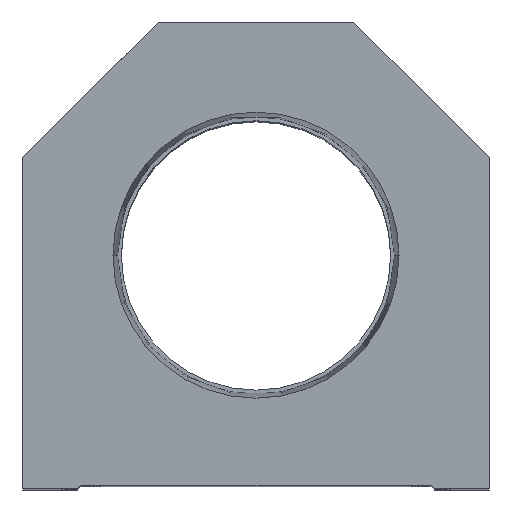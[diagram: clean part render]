
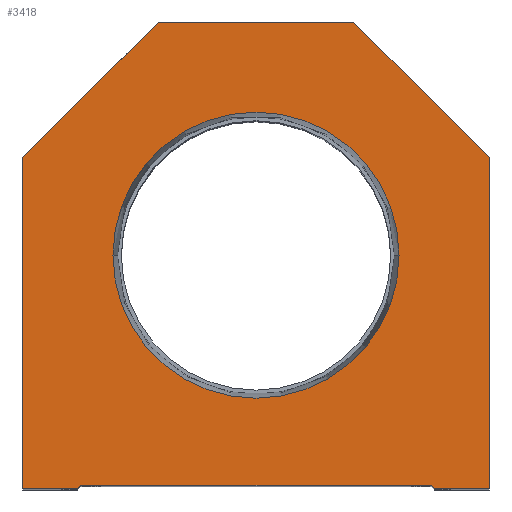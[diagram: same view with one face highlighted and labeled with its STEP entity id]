
A CAD part, top view. The second image highlights one B-rep face of the part: STEP entity #3418.
In plain terms, the highlighted planar face has unit normal (0, 0, 1).
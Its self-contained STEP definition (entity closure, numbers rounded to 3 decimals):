
#151 = EDGE_CURVE ( 'NONE', #7926, #14032, #14495, .T. ) ;
#550 = CARTESIAN_POINT ( 'NONE',  ( -14.55, 14.55, 0. ) ) ;
#605 = CARTESIAN_POINT ( 'NONE',  ( -28.6, 0.5, 0. ) ) ;
#867 = LINE ( 'NONE', #14724, #13918 ) ;
#948 = EDGE_CURVE ( 'NONE', #9672, #9297, #867, .T. ) ;
#1232 = VECTOR ( 'NONE', #2994, 1000. ) ;
#1258 = CARTESIAN_POINT ( 'NONE',  ( -28.6, 0.5, 0. ) ) ;
#1367 = DIRECTION ( 'NONE',  ( -1., 0., 0. ) ) ;
#1406 = CARTESIAN_POINT ( 'NONE',  ( 16., 76.2, 0. ) ) ;
#1644 = ORIENTED_EDGE ( 'NONE', *, *, #14567, .T. ) ;
#1730 = VERTEX_POINT ( 'NONE', #16358 ) ;
#1758 = DIRECTION ( 'NONE',  ( 0.707, 0.707, 0. ) ) ;
#1857 = EDGE_CURVE ( 'NONE', #1730, #12269, #5160, .T. ) ;
#1858 = CARTESIAN_POINT ( 'NONE',  ( 14.55, 14.55, 0. ) ) ;
#1873 = FACE_BOUND ( 'NONE', #18305, .T. ) ;
#2049 = DIRECTION ( 'NONE',  ( 0., 0., 1. ) ) ;
#2114 = CARTESIAN_POINT ( 'NONE',  ( 29.1, 0., 0. ) ) ;
#2665 = CARTESIAN_POINT ( 'NONE',  ( 28.6, 0., 0. ) ) ;
#2994 = DIRECTION ( 'NONE',  ( -0.707, 0.707, 0. ) ) ;
#3004 = ORIENTED_EDGE ( 'NONE', *, *, #13508, .T. ) ;
#3037 = DIRECTION ( 'NONE',  ( 1., 0., 0. ) ) ;
#3080 = EDGE_LOOP ( 'NONE', ( #10641, #6887, #10132, #12945, #16766, #8941, #5038, #1644, #10246, #3004 ) ) ;
#3165 = ORIENTED_EDGE ( 'NONE', *, *, #1857, .F. ) ;
#3229 = DIRECTION ( 'NONE',  ( 0., -1., 0. ) ) ;
#3245 = FACE_OUTER_BOUND ( 'NONE', #3080, .T. ) ;
#3332 = CARTESIAN_POINT ( 'NONE',  ( 38.1, 0., 0. ) ) ;
#3418 = ADVANCED_FACE ( 'NONE', ( #1873, #3245 ), #11912, .T. ) ;
#3927 = VECTOR ( 'NONE', #1758, 1000. ) ;
#4194 = DIRECTION ( 'NONE',  ( 0., 0., 1. ) ) ;
#4347 = CARTESIAN_POINT ( 'NONE',  ( -38.1, 0., 0. ) ) ;
#4427 = LINE ( 'NONE', #2665, #17082 ) ;
#4485 = CARTESIAN_POINT ( 'NONE',  ( 0., 38.1, 0. ) ) ;
#4547 = DIRECTION ( 'NONE',  ( 1., 0., 0. ) ) ;
#4620 = LINE ( 'NONE', #4347, #14290 ) ;
#5038 = ORIENTED_EDGE ( 'NONE', *, *, #13071, .T. ) ;
#5059 = LINE ( 'NONE', #13347, #6900 ) ;
#5160 = CIRCLE ( 'NONE', #17905, 23.374 ) ;
#5224 = AXIS2_PLACEMENT_3D ( 'NONE', #4485, #8496, #15628 ) ;
#5622 = VECTOR ( 'NONE', #7514, 1000. ) ;
#6617 = CARTESIAN_POINT ( 'NONE',  ( -29.1, 0., 0. ) ) ;
#6887 = ORIENTED_EDGE ( 'NONE', *, *, #151, .T. ) ;
#6900 = VECTOR ( 'NONE', #10738, 1000. ) ;
#7016 = DIRECTION ( 'NONE',  ( 1., 0., 0. ) ) ;
#7091 = VERTEX_POINT ( 'NONE', #1406 ) ;
#7465 = VERTEX_POINT ( 'NONE', #14097 ) ;
#7478 = EDGE_CURVE ( 'NONE', #13837, #9672, #4427, .T. ) ;
#7514 = DIRECTION ( 'NONE',  ( 0.707, -0.707, 0. ) ) ;
#7926 = VERTEX_POINT ( 'NONE', #6617 ) ;
#8436 = EDGE_CURVE ( 'NONE', #12269, #1730, #17970, .T. ) ;
#8496 = DIRECTION ( 'NONE',  ( 0., 0., 1. ) ) ;
#8941 = ORIENTED_EDGE ( 'NONE', *, *, #948, .T. ) ;
#8942 = LINE ( 'NONE', #17292, #15722 ) ;
#9239 = ORIENTED_EDGE ( 'NONE', *, *, #8436, .F. ) ;
#9297 = VERTEX_POINT ( 'NONE', #11878 ) ;
#9672 = VERTEX_POINT ( 'NONE', #3332 ) ;
#10012 = EDGE_CURVE ( 'NONE', #12077, #7926, #5059, .T. ) ;
#10074 = LINE ( 'NONE', #15717, #1232 ) ;
#10132 = ORIENTED_EDGE ( 'NONE', *, *, #10801, .T. ) ;
#10246 = ORIENTED_EDGE ( 'NONE', *, *, #15571, .T. ) ;
#10641 = ORIENTED_EDGE ( 'NONE', *, *, #10012, .T. ) ;
#10738 = DIRECTION ( 'NONE',  ( 1., 0., 0. ) ) ;
#10801 = EDGE_CURVE ( 'NONE', #14032, #14426, #12415, .T. ) ;
#11080 = CARTESIAN_POINT ( 'NONE',  ( -38.1, 0., 0. ) ) ;
#11191 = CARTESIAN_POINT ( 'NONE',  ( 0., 38.1, 0. ) ) ;
#11878 = CARTESIAN_POINT ( 'NONE',  ( 38.1, 54.1, 0. ) ) ;
#11912 = PLANE ( 'NONE',  #17796 ) ;
#12077 = VERTEX_POINT ( 'NONE', #11080 ) ;
#12269 = VERTEX_POINT ( 'NONE', #16951 ) ;
#12415 = LINE ( 'NONE', #1258, #16644 ) ;
#12434 = VECTOR ( 'NONE', #1367, 1000. ) ;
#12945 = ORIENTED_EDGE ( 'NONE', *, *, #16105, .T. ) ;
#13071 = EDGE_CURVE ( 'NONE', #9297, #7091, #10074, .T. ) ;
#13286 = CARTESIAN_POINT ( 'NONE',  ( 0., 0., 0. ) ) ;
#13347 = CARTESIAN_POINT ( 'NONE',  ( -28.6, 0., 0. ) ) ;
#13508 = EDGE_CURVE ( 'NONE', #7465, #12077, #4620, .T. ) ;
#13837 = VERTEX_POINT ( 'NONE', #2114 ) ;
#13912 = VERTEX_POINT ( 'NONE', #16643 ) ;
#13918 = VECTOR ( 'NONE', #16452, 1000. ) ;
#14032 = VERTEX_POINT ( 'NONE', #605 ) ;
#14088 = LINE ( 'NONE', #15204, #12434 ) ;
#14097 = CARTESIAN_POINT ( 'NONE',  ( -38.1, 54.1, 0. ) ) ;
#14290 = VECTOR ( 'NONE', #3229, 1000. ) ;
#14426 = VERTEX_POINT ( 'NONE', #14770 ) ;
#14495 = LINE ( 'NONE', #550, #3927 ) ;
#14567 = EDGE_CURVE ( 'NONE', #7091, #13912, #14088, .T. ) ;
#14724 = CARTESIAN_POINT ( 'NONE',  ( 38.1, 0., 0. ) ) ;
#14770 = CARTESIAN_POINT ( 'NONE',  ( 28.6, 0.5, 0. ) ) ;
#15204 = CARTESIAN_POINT ( 'NONE',  ( 16., 76.2, 0. ) ) ;
#15437 = DIRECTION ( 'NONE',  ( 1., 0., 0. ) ) ;
#15571 = EDGE_CURVE ( 'NONE', #13912, #7465, #8942, .T. ) ;
#15628 = DIRECTION ( 'NONE',  ( 1., 0., 0. ) ) ;
#15697 = DIRECTION ( 'NONE',  ( -0.707, -0.707, 0. ) ) ;
#15717 = CARTESIAN_POINT ( 'NONE',  ( 38.1, 54.1, 0. ) ) ;
#15722 = VECTOR ( 'NONE', #15697, 1000. ) ;
#16105 = EDGE_CURVE ( 'NONE', #14426, #13837, #16130, .T. ) ;
#16130 = LINE ( 'NONE', #1858, #5622 ) ;
#16358 = CARTESIAN_POINT ( 'NONE',  ( -23.374, 38.1, 0. ) ) ;
#16452 = DIRECTION ( 'NONE',  ( 0., 1., 0. ) ) ;
#16643 = CARTESIAN_POINT ( 'NONE',  ( -16., 76.2, 0. ) ) ;
#16644 = VECTOR ( 'NONE', #7016, 1000. ) ;
#16766 = ORIENTED_EDGE ( 'NONE', *, *, #7478, .T. ) ;
#16951 = CARTESIAN_POINT ( 'NONE',  ( 23.374, 38.1, 0. ) ) ;
#17082 = VECTOR ( 'NONE', #3037, 1000. ) ;
#17292 = CARTESIAN_POINT ( 'NONE',  ( -38.1, 54.1, 0. ) ) ;
#17796 = AXIS2_PLACEMENT_3D ( 'NONE', #13286, #2049, #4547 ) ;
#17905 = AXIS2_PLACEMENT_3D ( 'NONE', #11191, #4194, #15437 ) ;
#17970 = CIRCLE ( 'NONE', #5224, 23.374 ) ;
#18305 = EDGE_LOOP ( 'NONE', ( #9239, #3165 ) ) ;
